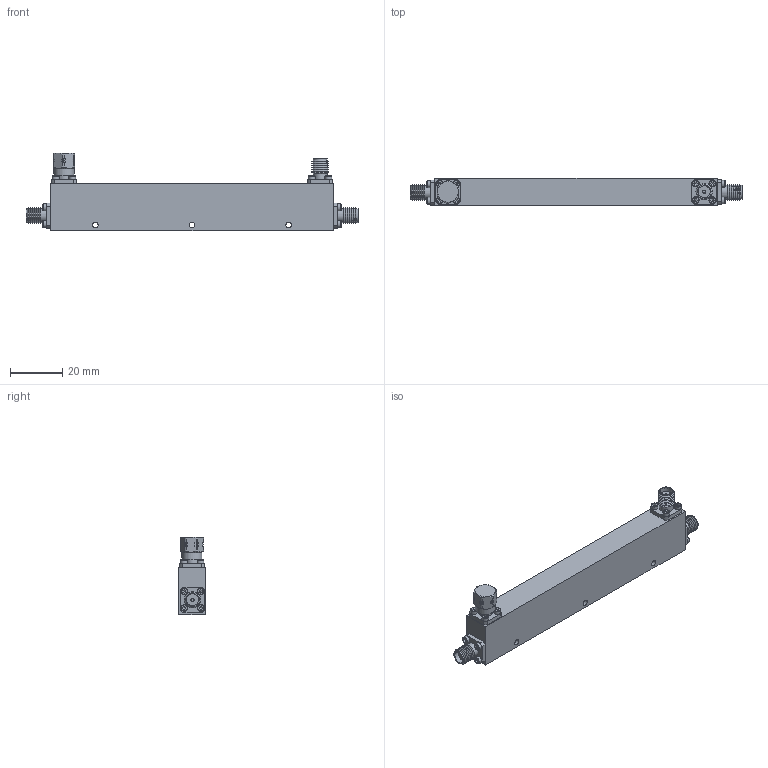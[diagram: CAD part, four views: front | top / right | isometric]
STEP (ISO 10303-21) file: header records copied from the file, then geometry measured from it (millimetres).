
FILE_DESCRIPTION(/* description */ ('Unknown'),/* implementation_level */ '2;1');
FILE_NAME(/* name */ 'DETI_MICROWAVE_DIRECTIONAL_COUPLER_011260_STEP',/* time_stamp */ '2021-06-08T09:26:06+02:00',/* author */ ('ALG'),/* organization */ ('DETI'),/* preprocessor_version */ 'ST-DEVELOPER v16.7',/* originating_system */ 'Solid Edge',/* authorisation */ 'Unknown');
FILE_SCHEMA (('AUTOMOTIVE_DESIGN {1 0 10303 214 3 1 1}'));
Length unit declared in the file: millimetre
Products named in the file (1): CD-1-500-2000-10-50-SF-SF-SF2
Bounding box: 127 x 10.3 x 29.7 mm (x, y, z)
Volume: 21448.5 mm3; surface area: 8819.5 mm2
Topology: 1 solids, 30 shells, 483 faces, 1158 edges, 756 vertices
Faces by surface type: plane 212, cylinder 139, cone 116, torus 16
Full cylindrical faces by diameter (mm): 1.1 x4, 1.221 x8, 1.27 x7, 1.4 x16, 1.8 x16, 2.2 x3, 2.6 x16, 4.1 x4, 4.6 x3, 5.3 x7, 5.59 x2, 6.425 x1, 6.6 x1, 7.7 x1
Entity records: 15978 total; most frequent: CARTESIAN_POINT 2628, DIRECTION 2020, ORIENTED_EDGE 1744, EDGE_CURVE 872, AXIS2_PLACEMENT_3D 840, FACE_BOUND 771, EDGE_LOOP 747, VERTEX_POINT 685
